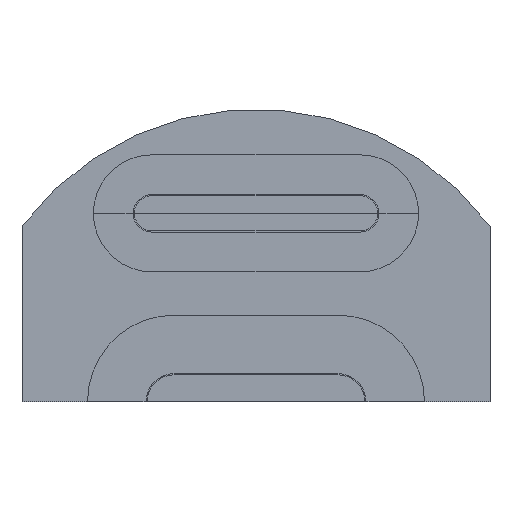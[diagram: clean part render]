
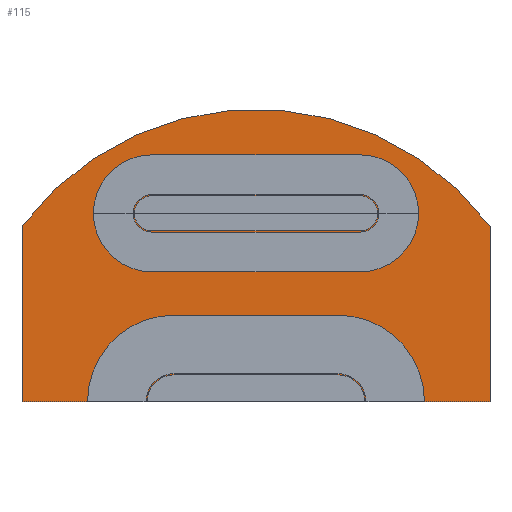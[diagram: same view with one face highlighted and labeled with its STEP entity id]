
A CAD part, front view. The second image highlights one B-rep face of the part: STEP entity #115.
In plain terms, the highlighted planar face has unit normal (0, -1, 0).
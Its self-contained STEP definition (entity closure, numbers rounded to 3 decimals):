
#115=ADVANCED_FACE('',(#191),#192,.F.);
#191=FACE_OUTER_BOUND('',#299,.T.);
#192=PLANE('',#300);
#299=EDGE_LOOP('',(#520,#521,#522,#523));
#300=AXIS2_PLACEMENT_3D('',#524,#525,#526);
#520=ORIENTED_EDGE('',*,*,#814,.T.);
#521=ORIENTED_EDGE('',*,*,#805,.T.);
#522=ORIENTED_EDGE('',*,*,#809,.T.);
#523=ORIENTED_EDGE('',*,*,#812,.T.);
#524=CARTESIAN_POINT('',(0.,78.25,102.669));
#525=DIRECTION('',(0.0,1.0,0.0));
#526=DIRECTION('',(0.0,0.0,1.0));
#805=EDGE_CURVE('',#952,#950,#953,.T.);
#809=EDGE_CURVE('',#950,#957,#959,.T.);
#812=EDGE_CURVE('',#957,#962,#964,.T.);
#814=EDGE_CURVE('',#962,#952,#966,.T.);
#950=VERTEX_POINT('',#1175);
#952=VERTEX_POINT('',#1178);
#953=LINE('',#1179,#1180);
#957=VERTEX_POINT('',#1186);
#959=LINE('',#1189,#1190);
#962=VERTEX_POINT('',#1193);
#964=CIRCLE('',#1196,250.0);
#966=LINE('',#1199,#1200);
#1175=CARTESIAN_POINT('',(200.0,78.25,0.0));
#1178=CARTESIAN_POINT('',(-200.0,78.25,0.0));
#1179=CARTESIAN_POINT('',(-200.0,78.25,0.0));
#1180=VECTOR('',#1431,1.0);
#1186=CARTESIAN_POINT('',(200.0,78.25,150.0));
#1189=CARTESIAN_POINT('',(200.0,78.25,0.0));
#1190=VECTOR('',#1435,1.0);
#1193=CARTESIAN_POINT('',(-200.0,78.25,150.0));
#1196=AXIS2_PLACEMENT_3D('',#1440,#1441,#1442);
#1199=CARTESIAN_POINT('',(-200.0,78.25,150.0));
#1200=VECTOR('',#1444,1.0);
#1431=DIRECTION('',(1.0,0.0,0.0));
#1435=DIRECTION('',(0.0,0.0,1.0));
#1440=CARTESIAN_POINT('',(0.0,78.25,0.0));
#1441=DIRECTION('',(0.0,-1.0,0.0));
#1442=DIRECTION('',(0.8,0.0,0.6));
#1444=DIRECTION('',(0.0,0.0,-1.0));
